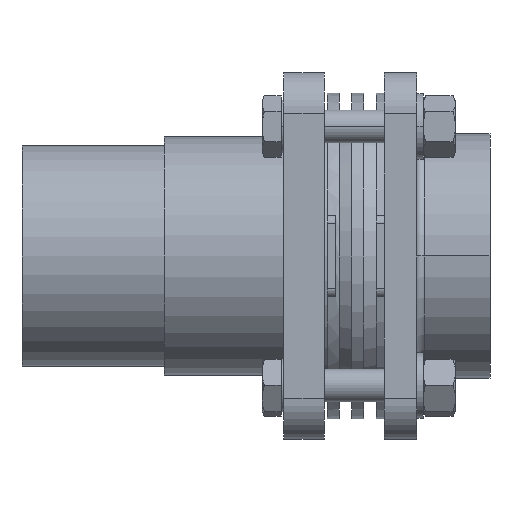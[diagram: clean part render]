
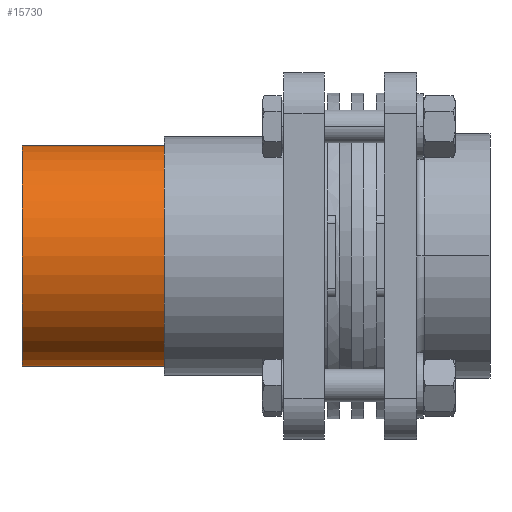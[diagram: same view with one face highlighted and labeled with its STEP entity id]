
A CAD part, front view. The second image highlights one B-rep face of the part: STEP entity #15730.
In plain terms, the highlighted cylindrical face has radius 27.125 mm (diameter 54.25 mm), a partial arc.
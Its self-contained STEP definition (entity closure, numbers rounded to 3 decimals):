
#4249 = CIRCLE ( 'NONE', #4251, 27.125 ) ;
#4251 = AXIS2_PLACEMENT_3D ( 'NONE', #12138, #12139, #12140 ) ;
#5072 = LINE ( 'NONE', #5078, #16303 ) ;
#5078 = CARTESIAN_POINT ( 'NONE',  ( -12.482, -2.813, 34.42 ) ) ;
#5079 = DIRECTION ( 'NONE',  ( -1., 0., 0. ) ) ;
#5082 = CARTESIAN_POINT ( 'NONE',  ( -12.482, -2.813, -19.83 ) ) ;
#5086 = LINE ( 'NONE', #5082, #16308 ) ;
#5090 = DIRECTION ( 'NONE',  ( -1., 0., 0. ) ) ;
#6475 = DIRECTION ( 'NONE',  ( -1., 0., 0. ) ) ;
#6479 = FACE_OUTER_BOUND ( 'NONE', #15376, .T. ) ;
#6480 = CARTESIAN_POINT ( 'NONE',  ( -12.482, -2.813, 7.295 ) ) ;
#6482 = CYLINDRICAL_SURFACE ( 'NONE', #6690, 27.125 ) ;
#6483 = DIRECTION ( 'NONE',  ( 0., 0., 1. ) ) ;
#6690 = AXIS2_PLACEMENT_3D ( 'NONE', #6480, #6475, #6483 ) ;
#7938 = VERTEX_POINT ( 'NONE', #12822 ) ;
#7990 = VERTEX_POINT ( 'NONE', #12874 ) ;
#7997 = VERTEX_POINT ( 'NONE', #12881 ) ;
#8015 = VERTEX_POINT ( 'NONE', #12899 ) ;
#12138 = CARTESIAN_POINT ( 'NONE',  ( -77.482, -2.813, 7.295 ) ) ;
#12139 = DIRECTION ( 'NONE',  ( 1., 0., 0. ) ) ;
#12140 = DIRECTION ( 'NONE',  ( 0., 0., -1. ) ) ;
#12243 = CARTESIAN_POINT ( 'NONE',  ( -12.482, -2.813, 7.295 ) ) ;
#12244 = DIRECTION ( 'NONE',  ( 1., 0., 0. ) ) ;
#12245 = DIRECTION ( 'NONE',  ( 0., 0., -1. ) ) ;
#12391 = CIRCLE ( 'NONE', #12399, 27.125 ) ;
#12399 = AXIS2_PLACEMENT_3D ( 'NONE', #12243, #12244, #12245 ) ;
#12822 = CARTESIAN_POINT ( 'NONE',  ( -77.482, -2.813, 34.42 ) ) ;
#12874 = CARTESIAN_POINT ( 'NONE',  ( -12.482, -2.813, 34.42 ) ) ;
#12881 = CARTESIAN_POINT ( 'NONE',  ( -77.482, -2.813, -19.83 ) ) ;
#12899 = CARTESIAN_POINT ( 'NONE',  ( -12.482, -2.813, -19.83 ) ) ;
#13510 = EDGE_CURVE ( 'NONE', #7990, #7938, #5072, .T. ) ;
#13514 = EDGE_CURVE ( 'NONE', #8015, #7997, #5086, .T. ) ;
#15150 = ORIENTED_EDGE ( 'NONE', *, *, #13514, .F. ) ;
#15151 = ORIENTED_EDGE ( 'NONE', *, *, #17765, .F. ) ;
#15152 = ORIENTED_EDGE ( 'NONE', *, *, #13510, .T. ) ;
#15153 = ORIENTED_EDGE ( 'NONE', *, *, #17729, .T. ) ;
#15376 = EDGE_LOOP ( 'NONE', ( #15150, #15151, #15152, #15153 ) ) ;
#15730 = ADVANCED_FACE ( 'NONE', ( #6479 ), #6482, .T. ) ;
#16303 = VECTOR ( 'NONE', #5079, 1000. ) ;
#16308 = VECTOR ( 'NONE', #5090, 1000. ) ;
#17729 = EDGE_CURVE ( 'NONE', #7938, #7997, #4249, .T. ) ;
#17765 = EDGE_CURVE ( 'NONE', #7990, #8015, #12391, .T. ) ;
